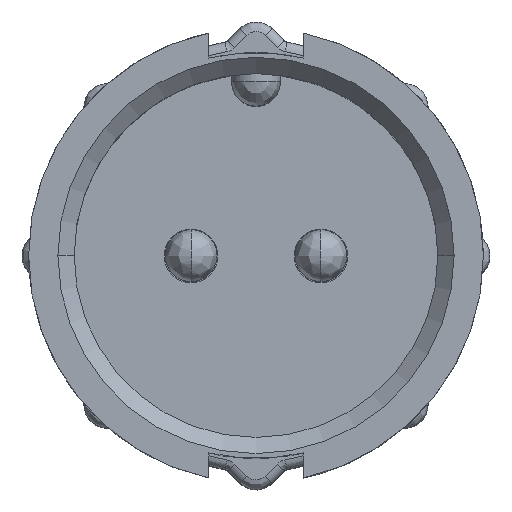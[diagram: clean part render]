
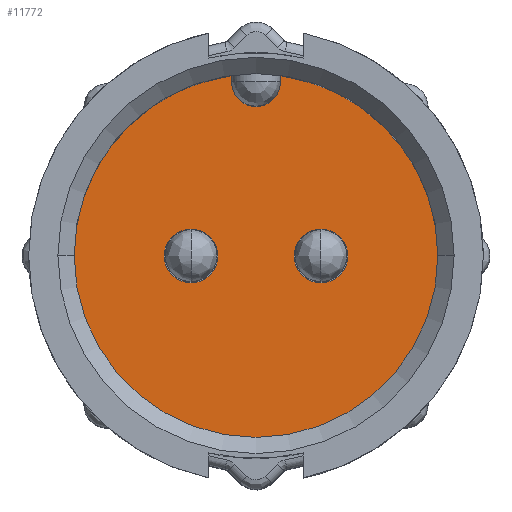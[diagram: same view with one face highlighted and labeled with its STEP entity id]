
A CAD part, top view. The second image highlights one B-rep face of the part: STEP entity #11772.
In plain terms, the highlighted planar face has unit normal (0, 0, 1).
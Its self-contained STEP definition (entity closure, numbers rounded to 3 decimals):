
#5 = VERTEX_POINT ( 'NONE', #5064 ) ;
#58 = EDGE_CURVE ( 'NONE', #5, #942, #1879, .T. ) ;
#218 = DIRECTION ( 'NONE',  ( 0., 0., 1. ) ) ;
#360 = DIRECTION ( 'NONE',  ( 0., 0., 1. ) ) ;
#386 = ORIENTED_EDGE ( 'NONE', *, *, #3072, .T. ) ;
#476 = VERTEX_POINT ( 'NONE', #12648 ) ;
#497 = EDGE_CURVE ( 'NONE', #476, #10973, #3013, .T. ) ;
#561 = CARTESIAN_POINT ( 'NONE',  ( 2.825, 0., -9. ) ) ;
#843 = EDGE_CURVE ( 'NONE', #3189, #4909, #5245, .T. ) ;
#942 = VERTEX_POINT ( 'NONE', #8438 ) ;
#1001 = CIRCLE ( 'NONE', #10600, 5.6 ) ;
#1122 = DIRECTION ( 'NONE',  ( 1., 0., 0. ) ) ;
#1317 = CARTESIAN_POINT ( 'NONE',  ( -0.75, 5.55, -9. ) ) ;
#1359 = ORIENTED_EDGE ( 'NONE', *, *, #7488, .T. ) ;
#1846 = CIRCLE ( 'NONE', #8759, 5.6 ) ;
#1879 = CIRCLE ( 'NONE', #8804, 0.825 ) ;
#2004 = DIRECTION ( 'NONE',  ( 0., 0., 1. ) ) ;
#2035 = CARTESIAN_POINT ( 'NONE',  ( 0.75, -0.028, -9. ) ) ;
#2111 = VECTOR ( 'NONE', #10551, 1000. ) ;
#2216 = DIRECTION ( 'NONE',  ( 1., 0., 0. ) ) ;
#2737 = CIRCLE ( 'NONE', #5402, 0.825 ) ;
#2749 = AXIS2_PLACEMENT_3D ( 'NONE', #9918, #360, #1122 ) ;
#3013 = LINE ( 'NONE', #2035, #2111 ) ;
#3048 = DIRECTION ( 'NONE',  ( 0., 0., 1. ) ) ;
#3061 = CARTESIAN_POINT ( 'NONE',  ( 2., 0., -9. ) ) ;
#3072 = EDGE_CURVE ( 'NONE', #3387, #7391, #1001, .T. ) ;
#3189 = VERTEX_POINT ( 'NONE', #7667 ) ;
#3263 = CARTESIAN_POINT ( 'NONE',  ( 0., 0., -9. ) ) ;
#3387 = VERTEX_POINT ( 'NONE', #9108 ) ;
#3686 = DIRECTION ( 'NONE',  ( 0., 0., 1. ) ) ;
#3830 = DIRECTION ( 'NONE',  ( 0., 0., 1. ) ) ;
#3834 = EDGE_CURVE ( 'NONE', #7868, #3387, #5708, .T. ) ;
#4615 = DIRECTION ( 'NONE',  ( 1., 0., 0. ) ) ;
#4639 = ORIENTED_EDGE ( 'NONE', *, *, #497, .F. ) ;
#4909 = VERTEX_POINT ( 'NONE', #561 ) ;
#5016 = DIRECTION ( 'NONE',  ( 0., 0., 1. ) ) ;
#5064 = CARTESIAN_POINT ( 'NONE',  ( -1.175, 0., -9. ) ) ;
#5073 = FACE_BOUND ( 'NONE', #8920, .T. ) ;
#5156 = CIRCLE ( 'NONE', #10734, 0.75 ) ;
#5245 = CIRCLE ( 'NONE', #10143, 0.825 ) ;
#5402 = AXIS2_PLACEMENT_3D ( 'NONE', #3061, #5016, #11373 ) ;
#5444 = ORIENTED_EDGE ( 'NONE', *, *, #10489, .F. ) ;
#5593 = ORIENTED_EDGE ( 'NONE', *, *, #843, .F. ) ;
#5595 = CARTESIAN_POINT ( 'NONE',  ( 0., 0., -9. ) ) ;
#5677 = EDGE_LOOP ( 'NONE', ( #11769, #386, #1359, #4639, #5444, #13477 ) ) ;
#5708 = CIRCLE ( 'NONE', #7037, 5.6 ) ;
#5757 = ORIENTED_EDGE ( 'NONE', *, *, #58, .F. ) ;
#5792 = DIRECTION ( 'NONE',  ( 0., 0., 1. ) ) ;
#6142 = EDGE_LOOP ( 'NONE', ( #5757, #7287 ) ) ;
#6306 = EDGE_CURVE ( 'NONE', #4909, #3189, #2737, .T. ) ;
#6711 = CARTESIAN_POINT ( 'NONE',  ( 0., 5.35, -9. ) ) ;
#7037 = AXIS2_PLACEMENT_3D ( 'NONE', #11571, #2004, #7665 ) ;
#7078 = EDGE_CURVE ( 'NONE', #7868, #11483, #12883, .T. ) ;
#7095 = CARTESIAN_POINT ( 'NONE',  ( -2., 0., -9. ) ) ;
#7169 = FACE_BOUND ( 'NONE', #6142, .T. ) ;
#7287 = ORIENTED_EDGE ( 'NONE', *, *, #7505, .F. ) ;
#7391 = VERTEX_POINT ( 'NONE', #11884 ) ;
#7488 = EDGE_CURVE ( 'NONE', #7391, #10973, #1846, .T. ) ;
#7505 = EDGE_CURVE ( 'NONE', #942, #5, #12996, .T. ) ;
#7655 = CARTESIAN_POINT ( 'NONE',  ( -0.75, -0.028, -9. ) ) ;
#7665 = DIRECTION ( 'NONE',  ( 1., 0., 0. ) ) ;
#7667 = CARTESIAN_POINT ( 'NONE',  ( 1.175, 0., -9. ) ) ;
#7868 = VERTEX_POINT ( 'NONE', #1317 ) ;
#7953 = DIRECTION ( 'NONE',  ( 1., 0., 0. ) ) ;
#8097 = DIRECTION ( 'NONE',  ( 1., 0., 0. ) ) ;
#8417 = PLANE ( 'NONE',  #10484 ) ;
#8438 = CARTESIAN_POINT ( 'NONE',  ( -2.825, 0., -9. ) ) ;
#8759 = AXIS2_PLACEMENT_3D ( 'NONE', #5595, #218, #4615 ) ;
#8804 = AXIS2_PLACEMENT_3D ( 'NONE', #7095, #3686, #7953 ) ;
#8896 = DIRECTION ( 'NONE',  ( 0., -1., 0. ) ) ;
#8920 = EDGE_LOOP ( 'NONE', ( #9003, #5593 ) ) ;
#9003 = ORIENTED_EDGE ( 'NONE', *, *, #6306, .F. ) ;
#9108 = CARTESIAN_POINT ( 'NONE',  ( -5.6, 0., -9. ) ) ;
#9133 = CARTESIAN_POINT ( 'NONE',  ( 2., 0., -9. ) ) ;
#9427 = VECTOR ( 'NONE', #8896, 1000. ) ;
#9739 = CARTESIAN_POINT ( 'NONE',  ( 0.75, 5.55, -9. ) ) ;
#9913 = DIRECTION ( 'NONE',  ( 1., 0., 0. ) ) ;
#9918 = CARTESIAN_POINT ( 'NONE',  ( -2., 0., -9. ) ) ;
#10143 = AXIS2_PLACEMENT_3D ( 'NONE', #9133, #3830, #8097 ) ;
#10484 = AXIS2_PLACEMENT_3D ( 'NONE', #13723, #3048, #11495 ) ;
#10489 = EDGE_CURVE ( 'NONE', #11483, #476, #5156, .T. ) ;
#10551 = DIRECTION ( 'NONE',  ( 0., 1., 0. ) ) ;
#10600 = AXIS2_PLACEMENT_3D ( 'NONE', #3263, #11783, #2216 ) ;
#10734 = AXIS2_PLACEMENT_3D ( 'NONE', #6711, #5792, #9913 ) ;
#10973 = VERTEX_POINT ( 'NONE', #9739 ) ;
#11217 = CARTESIAN_POINT ( 'NONE',  ( -0.75, 5.35, -9. ) ) ;
#11373 = DIRECTION ( 'NONE',  ( 1., 0., 0. ) ) ;
#11483 = VERTEX_POINT ( 'NONE', #11217 ) ;
#11495 = DIRECTION ( 'NONE',  ( 1., 0., 0. ) ) ;
#11571 = CARTESIAN_POINT ( 'NONE',  ( 0., 0., -9. ) ) ;
#11769 = ORIENTED_EDGE ( 'NONE', *, *, #3834, .T. ) ;
#11772 = ADVANCED_FACE ( 'NONE', ( #5073, #7169, #13580 ), #8417, .T. ) ;
#11783 = DIRECTION ( 'NONE',  ( 0., 0., 1. ) ) ;
#11884 = CARTESIAN_POINT ( 'NONE',  ( 5.6, 0., -9. ) ) ;
#12648 = CARTESIAN_POINT ( 'NONE',  ( 0.75, 5.35, -9. ) ) ;
#12883 = LINE ( 'NONE', #7655, #9427 ) ;
#12996 = CIRCLE ( 'NONE', #2749, 0.825 ) ;
#13477 = ORIENTED_EDGE ( 'NONE', *, *, #7078, .F. ) ;
#13580 = FACE_OUTER_BOUND ( 'NONE', #5677, .T. ) ;
#13723 = CARTESIAN_POINT ( 'NONE',  ( -5.824, -5.828, -9. ) ) ;
